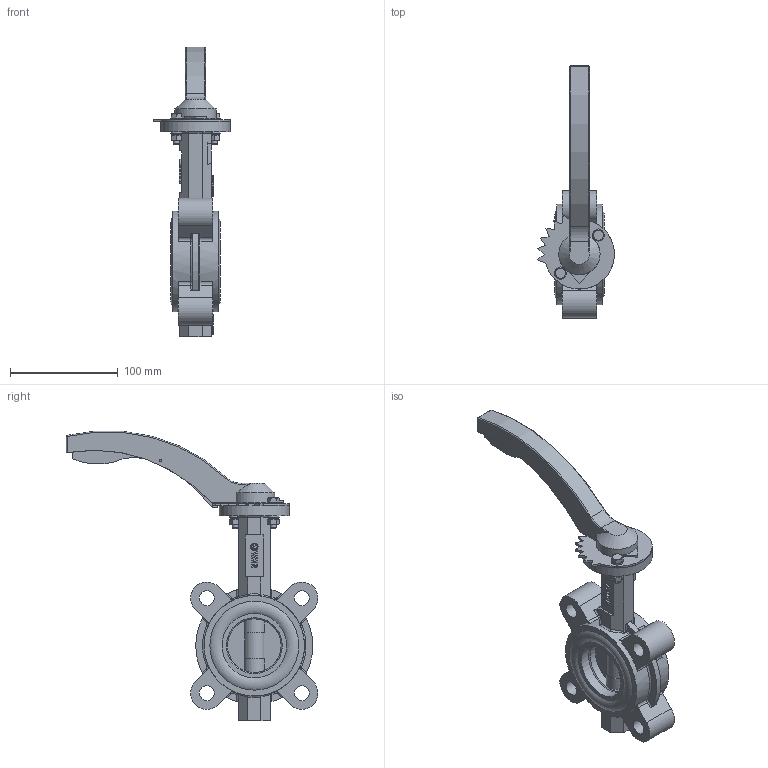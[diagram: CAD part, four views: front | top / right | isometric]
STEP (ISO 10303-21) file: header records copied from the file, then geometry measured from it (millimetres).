
FILE_DESCRIPTION(('STEP AP242'), '1');
FILE_NAME('Ïîâîðîòíûé çàòâîð ïîä ýëåêòðîïðèâîä', '', ('UNSPECIFIED'), ('UNSPECIFIED'), 'C3D Converter', 'C3D Toolkit', '');
FILE_SCHEMA(('AP242_MANAGED_MODEL_BASED_3D_ENGINEERING_MIM_LF { 1 0 10303 442 1 1 4 }'));
Length unit declared in the file: millimetre
Products named in the file (14): П
Assembly tree (20 placements, depth 3):
  (unnamed)
    (unnamed)
    П  x2
    (unnamed)
    (unnamed)
    (unnamed)
    (unnamed)
      (unnamed)
      (unnamed)
      (unnamed)
    (unnamed)  x2
    (unnamed)  x4
    (unnamed)  x2
    (unnamed)  x2
Bounding box: 71.39 x 234.14 x 269.61 mm (x, y, z)
Volume: 493675.4 mm3; surface area: 169516.3 mm2
Topology: 19 solids, 19 shells, 669 faces, 1687 edges, 1081 vertices
Faces by surface type: plane 305, cylinder 152, extrusion 135, torus 40, cone 18, bspline 10, sphere 9
Full cylindrical faces by diameter (mm): 2 x2, 3 x2, 4.917 x2, 6 x4, 6.6 x4, 6.865 x1, 7 x6, 11 x4, 13.835 x4, 14 x5, 15.4 x1, 19.799 x5, 20.235 x4, 22.627 x1, 50 x1, 52 x2, 60 x2, 65 x1, 71.333 x4, 82.667 x4, 93.447 x2
Entity records: 26021 total; most frequent: CARTESIAN_POINT 8939, ORIENTED_EDGE 3032, DIRECTION 2575, EDGE_CURVE 1516, VERTEX_POINT 1021, VECTOR 911, AXIS2_PLACEMENT_3D 832, LINE 776
